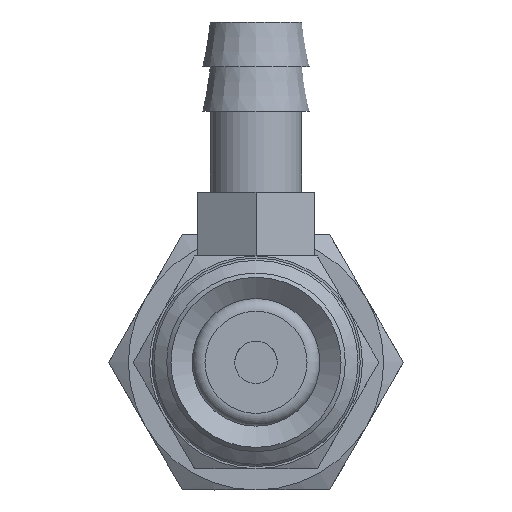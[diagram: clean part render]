
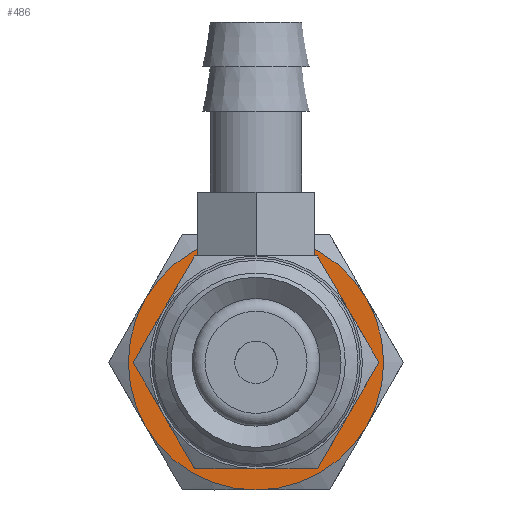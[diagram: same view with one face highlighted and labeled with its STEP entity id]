
A CAD part, front view. The second image highlights one B-rep face of the part: STEP entity #486.
In plain terms, the highlighted planar face has unit normal (0, -1, 0) as drawn and (-1, 0, 0) by its records, which use the part's own axes.
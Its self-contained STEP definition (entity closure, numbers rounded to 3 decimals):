
#486=ADVANCED_FACE('',(#656,#657),#658,.F.);
#656=FACE_BOUND('',#982,.T.);
#657=FACE_OUTER_BOUND('',#983,.T.);
#658=PLANE('',#984);
#982=EDGE_LOOP('',(#1446));
#983=EDGE_LOOP('',(#1447,#1448,#1449,#1450,#1451,#1452));
#984=AXIS2_PLACEMENT_3D('',#1453,#1454,#1455);
#1446=ORIENTED_EDGE('',*,*,#2168,.T.);
#1447=ORIENTED_EDGE('',*,*,#2159,.F.);
#1448=ORIENTED_EDGE('',*,*,#2130,.F.);
#1449=ORIENTED_EDGE('',*,*,#2160,.F.);
#1450=ORIENTED_EDGE('',*,*,#2145,.F.);
#1451=ORIENTED_EDGE('',*,*,#2144,.F.);
#1452=ORIENTED_EDGE('',*,*,#2158,.F.);
#1453=CARTESIAN_POINT('',(0.,0.0,0.0));
#1454=DIRECTION('',(1.0,0.0,0.0));
#1455=DIRECTION('',(0.0,1.0,0.0));
#2130=EDGE_CURVE('',#2384,#2387,#2388,.T.);
#2144=EDGE_CURVE('',#2410,#2407,#2412,.T.);
#2145=EDGE_CURVE('',#2407,#2413,#2414,.T.);
#2158=EDGE_CURVE('',#2404,#2410,#2432,.T.);
#2159=EDGE_CURVE('',#2387,#2404,#2433,.T.);
#2160=EDGE_CURVE('',#2413,#2384,#2434,.T.);
#2168=EDGE_CURVE('',#2445,#2445,#2446,.T.);
#2384=VERTEX_POINT('',#2826);
#2387=VERTEX_POINT('',#2849);
#2388=CIRCLE('',#2850,6.0);
#2404=VERTEX_POINT('',#2928);
#2407=VERTEX_POINT('',#2951);
#2410=VERTEX_POINT('',#2964);
#2412=CIRCLE('',#2976,6.0);
#2413=VERTEX_POINT('',#2977);
#2414=CIRCLE('',#2978,6.0);
#2432=CIRCLE('',#3078,6.0);
#2433=CIRCLE('',#3079,6.0);
#2434=CIRCLE('',#3080,6.0);
#2445=VERTEX_POINT('',#3111);
#2446=CIRCLE('',#3112,4.0);
#2826=CARTESIAN_POINT('',(0.,0.0,-6.0));
#2849=CARTESIAN_POINT('',(0.,5.196,-3.0));
#2850=AXIS2_PLACEMENT_3D('',#3615,#3616,#3617);
#2928=CARTESIAN_POINT('',(0.,5.196,3.0));
#2951=CARTESIAN_POINT('',(0.,-5.196,3.0));
#2964=CARTESIAN_POINT('',(0.,0.0,6.0));
#2976=AXIS2_PLACEMENT_3D('',#3623,#3624,#3625);
#2977=CARTESIAN_POINT('',(0.,-5.196,-3.0));
#2978=AXIS2_PLACEMENT_3D('',#3626,#3627,#3628);
#3078=AXIS2_PLACEMENT_3D('',#3637,#3638,#3639);
#3079=AXIS2_PLACEMENT_3D('',#3640,#3641,#3642);
#3080=AXIS2_PLACEMENT_3D('',#3643,#3644,#3645);
#3111=CARTESIAN_POINT('',(0.,0.0,-4.0));
#3112=AXIS2_PLACEMENT_3D('',#3661,#3662,#3663);
#3615=CARTESIAN_POINT('',(0.,0.0,0.0));
#3616=DIRECTION('',(1.0,0.0,0.0));
#3617=DIRECTION('',(0.0,0.0,-1.0));
#3623=CARTESIAN_POINT('',(0.,0.0,0.0));
#3624=DIRECTION('',(1.0,0.0,0.0));
#3625=DIRECTION('',(0.0,0.0,-1.0));
#3626=CARTESIAN_POINT('',(0.,0.0,0.0));
#3627=DIRECTION('',(1.0,0.0,0.0));
#3628=DIRECTION('',(0.0,0.0,-1.0));
#3637=CARTESIAN_POINT('',(0.,0.0,0.0));
#3638=DIRECTION('',(1.0,0.0,0.0));
#3639=DIRECTION('',(0.0,0.0,-1.0));
#3640=CARTESIAN_POINT('',(0.,0.0,0.0));
#3641=DIRECTION('',(1.0,0.0,0.0));
#3642=DIRECTION('',(0.0,0.0,-1.0));
#3643=CARTESIAN_POINT('',(0.,0.0,0.0));
#3644=DIRECTION('',(1.0,0.0,0.0));
#3645=DIRECTION('',(0.0,0.0,-1.0));
#3661=CARTESIAN_POINT('',(0.,0.0,0.0));
#3662=DIRECTION('',(1.0,0.0,0.0));
#3663=DIRECTION('',(0.0,0.0,-1.0));
